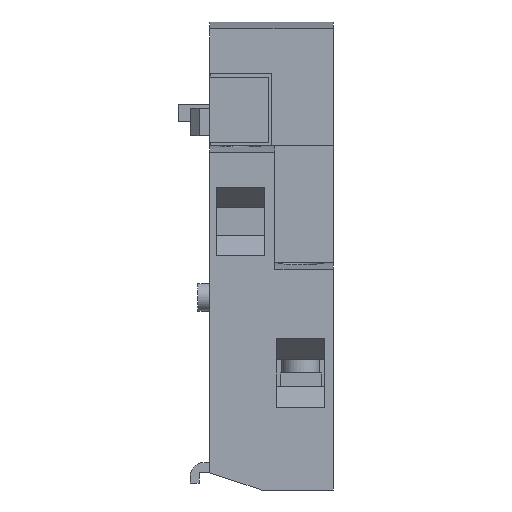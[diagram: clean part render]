
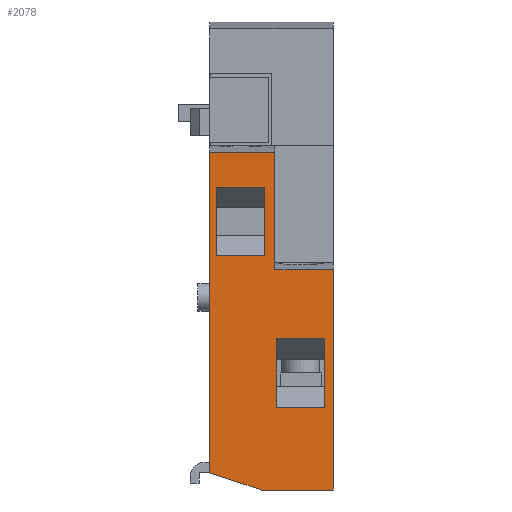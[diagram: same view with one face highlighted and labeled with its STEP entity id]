
A CAD part, front view. The second image highlights one B-rep face of the part: STEP entity #2078.
In plain terms, the highlighted planar face has unit normal (0, -1, 0).
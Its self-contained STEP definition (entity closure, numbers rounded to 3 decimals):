
#27 = VERTEX_POINT ( 'NONE', #1603 ) ;
#71 = CARTESIAN_POINT ( 'NONE',  ( 8., -45., 44. ) ) ;
#74 = CARTESIAN_POINT ( 'NONE',  ( 16.75, -45., 12. ) ) ;
#79 = VERTEX_POINT ( 'NONE', #1438 ) ;
#130 = EDGE_CURVE ( 'NONE', #2830, #27, #233, .T. ) ;
#131 = CARTESIAN_POINT ( 'NONE',  ( 18., -45., 68. ) ) ;
#178 = LINE ( 'NONE', #3432, #2066 ) ;
#186 = VECTOR ( 'NONE', #3685, 1000. ) ;
#233 = LINE ( 'NONE', #1475, #4412 ) ;
#320 = CARTESIAN_POINT ( 'NONE',  ( 18., -45., 0. ) ) ;
#327 = VERTEX_POINT ( 'NONE', #1220 ) ;
#330 = FACE_BOUND ( 'NONE', #4737, .T. ) ;
#417 = EDGE_CURVE ( 'NONE', #27, #3128, #2874, .T. ) ;
#448 = VERTEX_POINT ( 'NONE', #4920 ) ;
#537 = CARTESIAN_POINT ( 'NONE',  ( 9.5, -45., 50. ) ) ;
#539 = PLANE ( 'NONE',  #5213 ) ;
#625 = VECTOR ( 'NONE', #2739, 1000. ) ;
#644 = EDGE_CURVE ( 'NONE', #79, #1166, #738, .T. ) ;
#738 = LINE ( 'NONE', #1009, #2754 ) ;
#841 = ORIENTED_EDGE ( 'NONE', *, *, #2576, .F. ) ;
#882 = ORIENTED_EDGE ( 'NONE', *, *, #2988, .T. ) ;
#888 = CARTESIAN_POINT ( 'NONE',  ( 7.5, -45., 0. ) ) ;
#941 = LINE ( 'NONE', #2359, #1077 ) ;
#954 = CARTESIAN_POINT ( 'NONE',  ( 18., -45., 68. ) ) ;
#1009 = CARTESIAN_POINT ( 'NONE',  ( 9.5, -45., 32. ) ) ;
#1061 = LINE ( 'NONE', #954, #4143 ) ;
#1077 = VECTOR ( 'NONE', #5212, 1000. ) ;
#1114 = ORIENTED_EDGE ( 'NONE', *, *, #130, .T. ) ;
#1115 = LINE ( 'NONE', #4576, #3276 ) ;
#1121 = DIRECTION ( 'NONE',  ( -1., 0., 0. ) ) ;
#1135 = CARTESIAN_POINT ( 'NONE',  ( 0., -45., 2.5 ) ) ;
#1161 = LINE ( 'NONE', #537, #4254 ) ;
#1166 = VERTEX_POINT ( 'NONE', #4446 ) ;
#1220 = CARTESIAN_POINT ( 'NONE',  ( 18., -45., 0. ) ) ;
#1265 = FACE_OUTER_BOUND ( 'NONE', #2715, .T. ) ;
#1267 = ORIENTED_EDGE ( 'NONE', *, *, #417, .T. ) ;
#1317 = LINE ( 'NONE', #4147, #4290 ) ;
#1346 = EDGE_LOOP ( 'NONE', ( #882, #3929, #3377, #3627 ) ) ;
#1360 = DIRECTION ( 'NONE',  ( 0., 0., 1. ) ) ;
#1438 = CARTESIAN_POINT ( 'NONE',  ( 9.5, -45., 32. ) ) ;
#1475 = CARTESIAN_POINT ( 'NONE',  ( 0., -45., 68. ) ) ;
#1603 = CARTESIAN_POINT ( 'NONE',  ( 0., -45., 2.5 ) ) ;
#1620 = EDGE_CURVE ( 'NONE', #1685, #79, #1161, .T. ) ;
#1685 = VERTEX_POINT ( 'NONE', #1770 ) ;
#1690 = VECTOR ( 'NONE', #4528, 1000. ) ;
#1756 = CARTESIAN_POINT ( 'NONE',  ( 8., -45., 44. ) ) ;
#1770 = CARTESIAN_POINT ( 'NONE',  ( 9.5, -45., 49. ) ) ;
#1779 = VECTOR ( 'NONE', #5198, 1000. ) ;
#1803 = DIRECTION ( 'NONE',  ( 1., 0., 0. ) ) ;
#1816 = EDGE_CURVE ( 'NONE', #3186, #5194, #2908, .T. ) ;
#1914 = CARTESIAN_POINT ( 'NONE',  ( 8., -45., 37. ) ) ;
#1923 = ORIENTED_EDGE ( 'NONE', *, *, #644, .F. ) ;
#2057 = CARTESIAN_POINT ( 'NONE',  ( 16.75, -45., 22. ) ) ;
#2066 = VECTOR ( 'NONE', #2212, 1000. ) ;
#2078 = ADVANCED_FACE ( 'NONE', ( #330, #3412, #1265 ), #539, .F. ) ;
#2079 = CARTESIAN_POINT ( 'NONE',  ( 16.75, -45., 15. ) ) ;
#2136 = DIRECTION ( 'NONE',  ( -1., 0., 0. ) ) ;
#2212 = DIRECTION ( 'NONE',  ( -1., 0., 0. ) ) ;
#2265 = VECTOR ( 'NONE', #2729, 1000. ) ;
#2270 = EDGE_CURVE ( 'NONE', #5194, #4401, #2521, .T. ) ;
#2321 = CARTESIAN_POINT ( 'NONE',  ( 1., -45., 37. ) ) ;
#2325 = CARTESIAN_POINT ( 'NONE',  ( 9.75, -45., 12. ) ) ;
#2327 = EDGE_CURVE ( 'NONE', #1685, #2830, #941, .T. ) ;
#2359 = CARTESIAN_POINT ( 'NONE',  ( 18.001, -45., 49. ) ) ;
#2400 = ORIENTED_EDGE ( 'NONE', *, *, #1620, .F. ) ;
#2406 = CARTESIAN_POINT ( 'NONE',  ( 8., -45., 34. ) ) ;
#2478 = ORIENTED_EDGE ( 'NONE', *, *, #2270, .T. ) ;
#2521 = LINE ( 'NONE', #2321, #2265 ) ;
#2576 = EDGE_CURVE ( 'NONE', #327, #3128, #2636, .T. ) ;
#2619 = CARTESIAN_POINT ( 'NONE',  ( 1., -45., 34. ) ) ;
#2636 = LINE ( 'NONE', #320, #4660 ) ;
#2715 = EDGE_LOOP ( 'NONE', ( #3568, #1923, #2400, #4794, #1114, #1267, #841 ) ) ;
#2729 = DIRECTION ( 'NONE',  ( 0., 0., 1. ) ) ;
#2739 = DIRECTION ( 'NONE',  ( 0., 0., -1. ) ) ;
#2754 = VECTOR ( 'NONE', #1803, 1000. ) ;
#2775 = LINE ( 'NONE', #1914, #625 ) ;
#2783 = LINE ( 'NONE', #71, #1690 ) ;
#2816 = DIRECTION ( 'NONE',  ( -1., 0., 0. ) ) ;
#2830 = VERTEX_POINT ( 'NONE', #4380 ) ;
#2874 = LINE ( 'NONE', #1135, #1779 ) ;
#2905 = ORIENTED_EDGE ( 'NONE', *, *, #1816, .T. ) ;
#2908 = LINE ( 'NONE', #2406, #3845 ) ;
#2974 = DIRECTION ( 'NONE',  ( 0., 0., -1. ) ) ;
#2982 = VERTEX_POINT ( 'NONE', #2057 ) ;
#2988 = EDGE_CURVE ( 'NONE', #2982, #3009, #4366, .T. ) ;
#3009 = VERTEX_POINT ( 'NONE', #74 ) ;
#3128 = VERTEX_POINT ( 'NONE', #888 ) ;
#3129 = EDGE_CURVE ( 'NONE', #5075, #4401, #2783, .T. ) ;
#3186 = VERTEX_POINT ( 'NONE', #3346 ) ;
#3276 = VECTOR ( 'NONE', #2136, 1000. ) ;
#3346 = CARTESIAN_POINT ( 'NONE',  ( 8., -45., 34. ) ) ;
#3361 = DIRECTION ( 'NONE',  ( 0., 0., 1. ) ) ;
#3364 = DIRECTION ( 'NONE',  ( 0., 0., -1. ) ) ;
#3377 = ORIENTED_EDGE ( 'NONE', *, *, #3854, .T. ) ;
#3412 = FACE_BOUND ( 'NONE', #1346, .T. ) ;
#3429 = EDGE_CURVE ( 'NONE', #3009, #4922, #178, .T. ) ;
#3432 = CARTESIAN_POINT ( 'NONE',  ( 16.75, -45., 12. ) ) ;
#3563 = EDGE_CURVE ( 'NONE', #5075, #3186, #2775, .T. ) ;
#3568 = ORIENTED_EDGE ( 'NONE', *, *, #3919, .F. ) ;
#3595 = CARTESIAN_POINT ( 'NONE',  ( 1., -45., 44. ) ) ;
#3627 = ORIENTED_EDGE ( 'NONE', *, *, #4581, .F. ) ;
#3685 = DIRECTION ( 'NONE',  ( 0., 0., -1. ) ) ;
#3758 = DIRECTION ( 'NONE',  ( 0., 1., 0. ) ) ;
#3840 = ORIENTED_EDGE ( 'NONE', *, *, #3129, .F. ) ;
#3845 = VECTOR ( 'NONE', #2816, 1000. ) ;
#3854 = EDGE_CURVE ( 'NONE', #4922, #448, #1317, .T. ) ;
#3919 = EDGE_CURVE ( 'NONE', #1166, #327, #1061, .T. ) ;
#3929 = ORIENTED_EDGE ( 'NONE', *, *, #3429, .T. ) ;
#4143 = VECTOR ( 'NONE', #2974, 1000. ) ;
#4147 = CARTESIAN_POINT ( 'NONE',  ( 9.75, -45., 15. ) ) ;
#4254 = VECTOR ( 'NONE', #3364, 1000. ) ;
#4290 = VECTOR ( 'NONE', #3361, 1000. ) ;
#4307 = DIRECTION ( 'NONE',  ( 0., 0., -1. ) ) ;
#4366 = LINE ( 'NONE', #2079, #186 ) ;
#4380 = CARTESIAN_POINT ( 'NONE',  ( 0., -45., 49. ) ) ;
#4401 = VERTEX_POINT ( 'NONE', #3595 ) ;
#4412 = VECTOR ( 'NONE', #4307, 1000. ) ;
#4446 = CARTESIAN_POINT ( 'NONE',  ( 18., -45., 32. ) ) ;
#4528 = DIRECTION ( 'NONE',  ( -1., 0., 0. ) ) ;
#4576 = CARTESIAN_POINT ( 'NONE',  ( 16.75, -45., 22. ) ) ;
#4581 = EDGE_CURVE ( 'NONE', #2982, #448, #1115, .T. ) ;
#4616 = ORIENTED_EDGE ( 'NONE', *, *, #3563, .T. ) ;
#4660 = VECTOR ( 'NONE', #1121, 1000. ) ;
#4737 = EDGE_LOOP ( 'NONE', ( #3840, #4616, #2905, #2478 ) ) ;
#4794 = ORIENTED_EDGE ( 'NONE', *, *, #2327, .T. ) ;
#4920 = CARTESIAN_POINT ( 'NONE',  ( 9.75, -45., 22. ) ) ;
#4922 = VERTEX_POINT ( 'NONE', #2325 ) ;
#5075 = VERTEX_POINT ( 'NONE', #1756 ) ;
#5194 = VERTEX_POINT ( 'NONE', #2619 ) ;
#5198 = DIRECTION ( 'NONE',  ( 0.949, 0., -0.316 ) ) ;
#5212 = DIRECTION ( 'NONE',  ( -1., 0., 0. ) ) ;
#5213 = AXIS2_PLACEMENT_3D ( 'NONE', #131, #3758, #1360 ) ;
